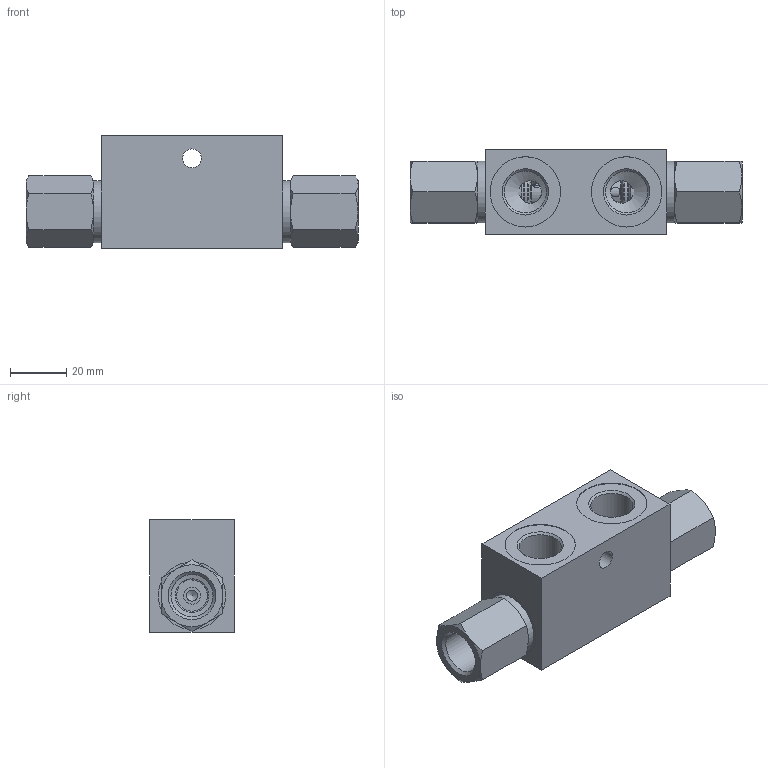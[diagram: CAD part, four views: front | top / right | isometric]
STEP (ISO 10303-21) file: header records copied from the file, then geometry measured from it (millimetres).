
FILE_DESCRIPTION(/* description */ (''),/* implementation_level */ '2;1');
FILE_NAME(/* name */ 'C:\Users\fabio.radici.LUEN\Desktop\N03-031-AJ0-A_Shrinkwrap.stp',/* time_stamp */ '2020-05-28T09:27:20+02:00',/* author */ ('Fabio Radici'),/* organization */ (''),/* preprocessor_version */ 'ST-DEVELOPER v18',/* originating_system */ 'Autodesk Inventor 2020',/* authorisation */ '');
FILE_SCHEMA (('AUTOMOTIVE_DESIGN { 1 0 10303 214 3 1 1 }'));
Length unit declared in the file: millimetre
Products named in the file (1): N03-031-AJ0-A_Shrinkwrap
Bounding box: 118 x 30 x 40 mm (x, y, z)
Surface area: 21520.6 mm2 (no closed solid volume)
Topology: 0 solids, 16 shells, 108 faces, 332 edges, 235 vertices
Faces by surface type: cone 43, plane 29, cylinder 28, torus 8
Full cylindrical faces by diameter (mm): 3.5 x2, 4 x3, 4.5 x2, 6.647 x1, 8 x2, 12 x2, 13 x2, 14.95 x4, 16 x2, 18 x2, 22 x2, 24 x2, 25 x2
Entity records: 4686 total; most frequent: CARTESIAN_POINT 1603, DIRECTION 611, ORIENTED_EDGE 587, EDGE_CURVE 330, AXIS2_PLACEMENT_3D 269, VERTEX_POINT 235, CIRCLE 160, EDGE_LOOP 131
